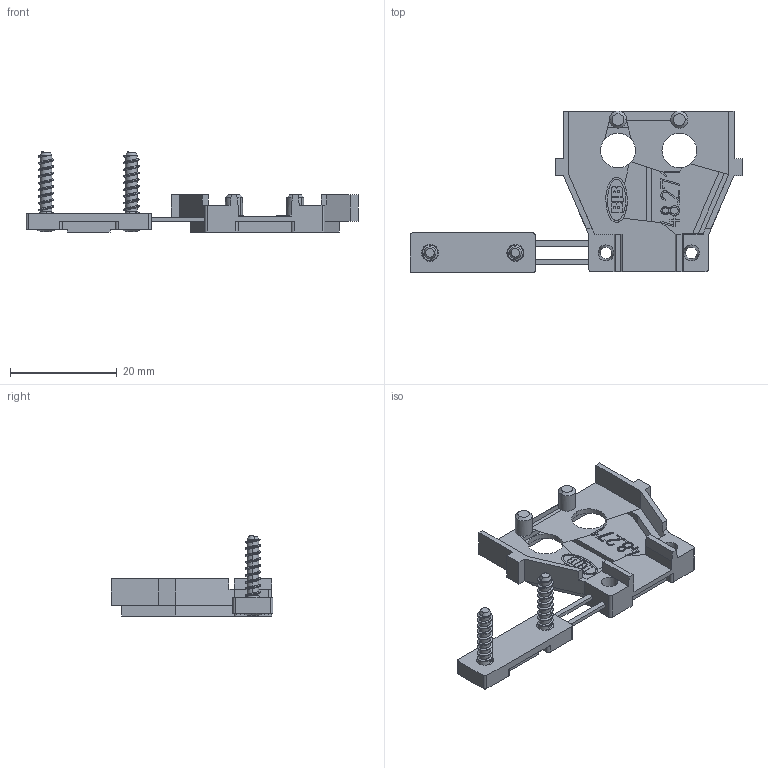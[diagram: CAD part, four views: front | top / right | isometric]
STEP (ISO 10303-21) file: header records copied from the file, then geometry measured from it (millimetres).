
FILE_DESCRIPTION((' '),'1');
FILE_NAME('009YE02Y04.stp','2010-03-02 T11:54:48',(' '),(' '),'STEP Interface v1.0 by CT CoreTechnologie','3D_Evolution v1.0 by CT CoreTechnologie',' ');
FILE_SCHEMA(('CONFIG_CONTROL_DESIGN'));
Length unit declared in the file: millimetre
Products named in the file (1): 009YE02Y04
Bounding box: 62.25 x 30.35 x 15 mm (x, y, z)
Volume: 2113.3 mm3; surface area: 4082.3 mm2
Topology: 1 solids, 1 shells, 371 faces, 1019 edges, 672 vertices
Faces by surface type: plane 221, cylinder 94, bspline 56
Entity records: 19727 total; most frequent: CARTESIAN_POINT 7288, ORIENTED_EDGE 2006, DIRECTION 1687, EDGE_CURVE 1003, VECTOR 693, LINE 693, VERTEX_POINT 664, AXIS2_PLACEMENT_3D 497
